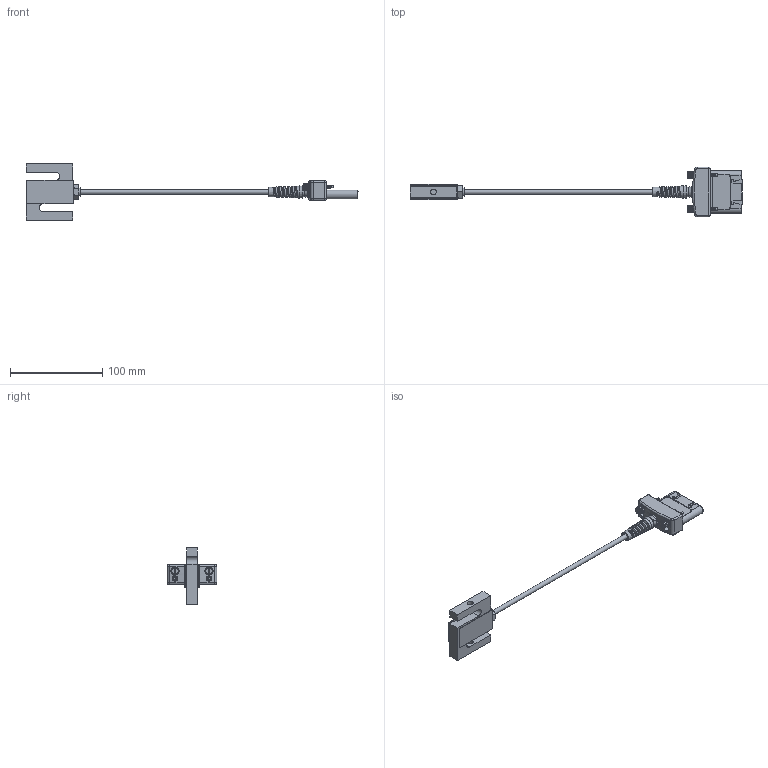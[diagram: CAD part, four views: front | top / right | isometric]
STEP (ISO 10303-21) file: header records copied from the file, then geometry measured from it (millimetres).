
FILE_DESCRIPTION(/* description */ (''),/* implementation_level */ '2;1');
FILE_NAME(/* name */ 'F:\CAD files\Itr\3D MARKETING MODELS\FORCE SENSORS\FS05\MR07_SENSOR.stp',/* time_stamp */ '2021-02-08T14:54:00-05:00',/* author */ ('dsollitt'),/* organization */ (''),/* preprocessor_version */ 'ST-DEVELOPER v18.1',/* originating_system */ 'AutoCAD Mechanical',/* authorisation */ '');
FILE_SCHEMA (('AUTOMOTIVE_DESIGN { 1 0 10303 214 3 1 1 }'));
Length unit declared in the file: inch
Products named in the file (1): Product
Bounding box: 360.59 x 54.02 x 60.96 mm (x, y, z)
Volume: 73821 mm3; surface area: 32092.8 mm2
Topology: 1 solids, 1 shells, 784 faces, 2160 edges, 1409 vertices
Faces by surface type: plane 455, cylinder 234, cone 68, bspline 16, torus 7, sphere 4
Full cylindrical faces by diameter (mm): 2.474 x14, 3.505 x10, 4.648 x2, 5.08 x1, 5.842 x2, 6.35 x2, 7.62 x5, 8.89 x2, 9.525 x1, 10.017 x1, 14.732 x1
Entity records: 32259 total; most frequent: CARTESIAN_POINT 12329, ORIENTED_EDGE 4318, DIRECTION 4020, EDGE_CURVE 2159, VERTEX_POINT 1408, AXIS2_PLACEMENT_3D 1351, LINE 1318, VECTOR 1318
